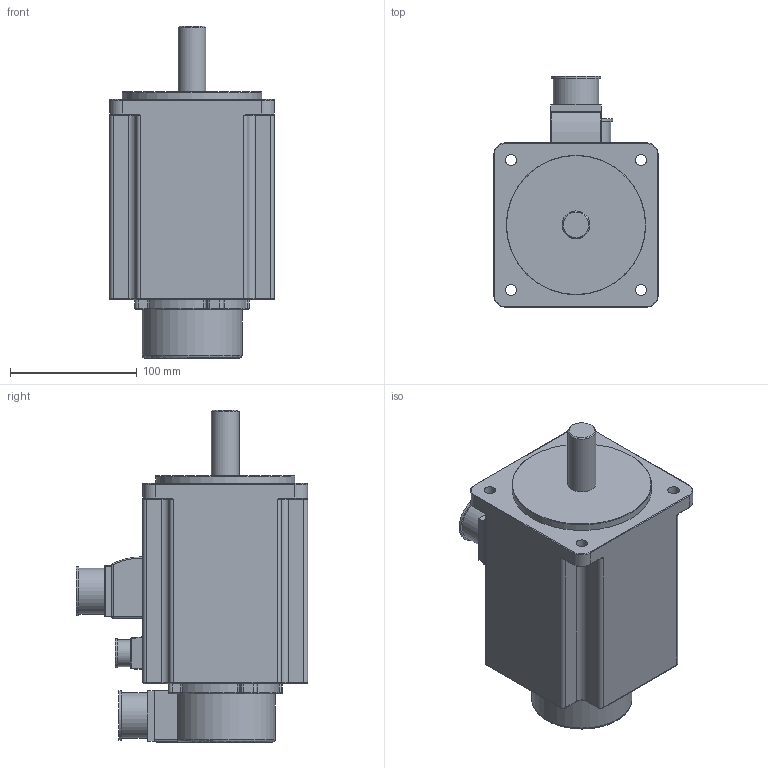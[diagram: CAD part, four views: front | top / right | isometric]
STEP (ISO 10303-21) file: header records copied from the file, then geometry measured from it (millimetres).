
FILE_DESCRIPTION(/* description */ (''),/* implementation_level */ '2;1');
FILE_NAME(/* name */ '130MAL06025 - FZ.stp',/* time_stamp */ '2019-11-22T13:51:54+08:00',/* author */ (''),/* organization */ (''),/* preprocessor_version */ 'ST-DEVELOPER v16',/* originating_system */ 'SIEMENS PLM Software NX 10.0',/* authorisation */ '');
FILE_SCHEMA (('CONFIG_CONTROL_DESIGN'));
Length unit declared in the file: millimetre
Products named in the file (1): 130MAL06025 - FZ
Bounding box: 130 x 182.5 x 262 mm (x, y, z)
Volume: 2875557.4 mm3; surface area: 146801.7 mm2
Topology: 1 solids, 1 shells, 283 faces, 663 edges, 375 vertices
Faces by surface type: cylinder 131, plane 67, torus 55, sphere 16, bspline 12, cone 2
Full cylindrical faces by diameter (mm): 9 x4, 21 x1, 22 x1, 23 x1, 36 x2, 39 x2, 110 x1
Entity records: 8052 total; most frequent: CARTESIAN_POINT 1557, DIRECTION 1477, ORIENTED_EDGE 1250, EDGE_CURVE 625, AXIS2_PLACEMENT_3D 602, VERTEX_POINT 369, CIRCLE 320, EDGE_LOOP 316
